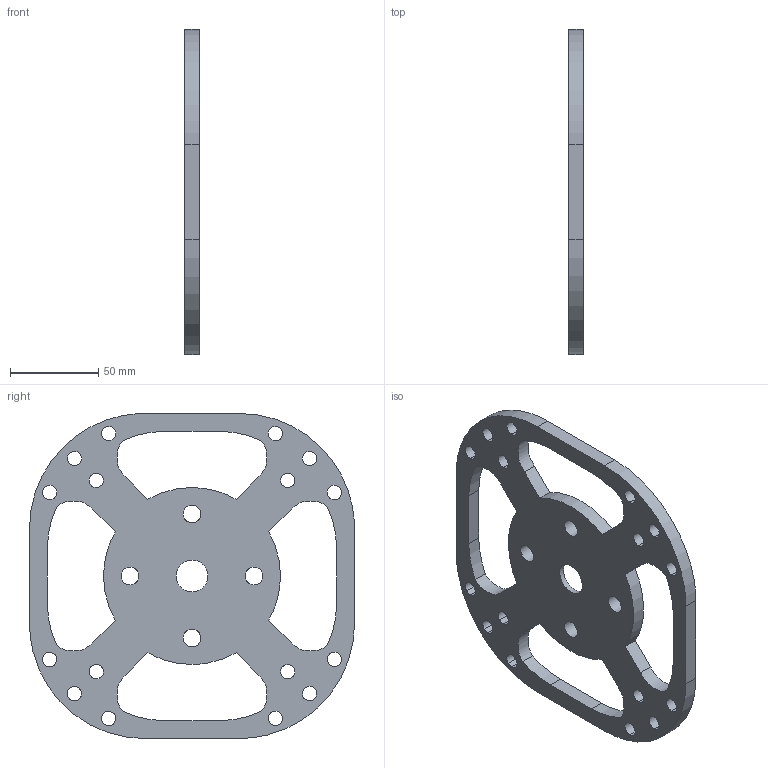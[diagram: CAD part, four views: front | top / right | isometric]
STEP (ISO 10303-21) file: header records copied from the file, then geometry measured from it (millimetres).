
FILE_DESCRIPTION ((), '1');
FILE_NAME ('C:\Users\tprototype\Desktop\TeslaGen Project\TeslaGen-v1\CNC Parts\Endplate\CAD File\Endplates49-57mm.stp', '2016-05-20T17:05:00', ('Unknown'), ('Unknown'), 'HarmonyWare STEP v1.7.11', 'HarmonyWare Translators', '');
FILE_SCHEMA (('CONFIG_CONTROL_DESIGN'));
Length unit declared in the file: millimetre
Products named in the file (1): Admi18C54z3a
Bounding box: 8 x 183.71 x 183.71 mm (x, y, z)
Volume: 136470 mm3; surface area: 53903.4 mm2
Topology: 1 solids, 1 shells, 84 faces, 247 edges, 166 vertices
Faces by surface type: bspline 84
Entity records: 3759 total; most frequent: CARTESIAN_POINT 2240, ORIENTED_EDGE 494, EDGE_CURVE 247, VERTEX_POINT 166, EDGE_LOOP 135, B_SPLINE_CURVE_WITH_KNOTS 122, FACE_OUTER_BOUND 84, ADVANCED_FACE 84
